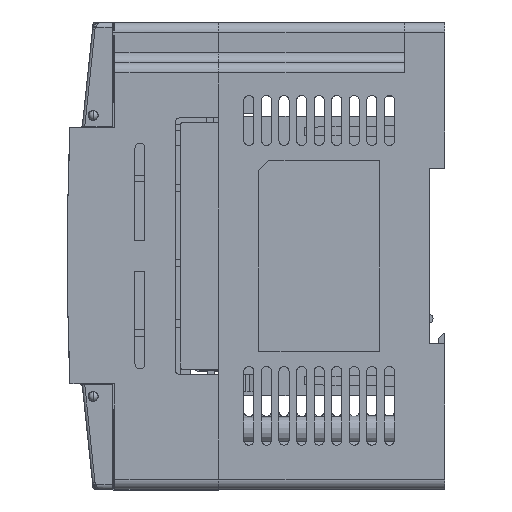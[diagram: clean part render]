
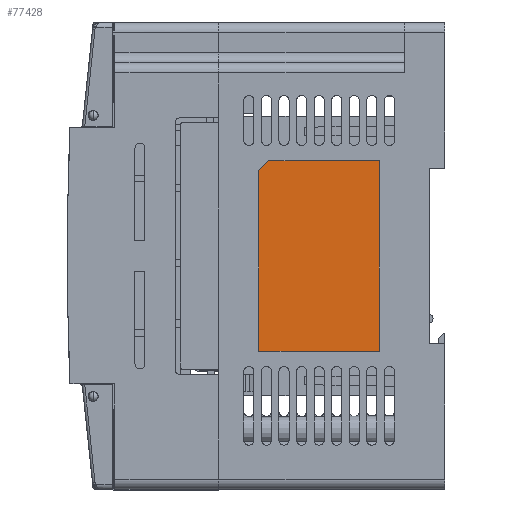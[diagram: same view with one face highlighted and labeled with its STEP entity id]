
A CAD part, left-side view. The second image highlights one B-rep face of the part: STEP entity #77428.
In plain terms, the highlighted planar face has unit normal (-1, 0, 0).
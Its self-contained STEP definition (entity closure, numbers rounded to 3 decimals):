
#1473 = EDGE_CURVE ( 'NONE', #42570, #53986, #59477, .T. ) ;
#3812 = CARTESIAN_POINT ( 'NONE',  ( -44.8, 12.996, -19. ) ) ;
#5919 = ORIENTED_EDGE ( 'NONE', *, *, #1473, .T. ) ;
#8323 = VECTOR ( 'NONE', #47122, 1000. ) ;
#9876 = CARTESIAN_POINT ( 'NONE',  ( -44.8, 0., 0. ) ) ;
#20959 = CARTESIAN_POINT ( 'NONE',  ( -44.8, 36.996, -19. ) ) ;
#22756 = ORIENTED_EDGE ( 'NONE', *, *, #45206, .T. ) ;
#24003 = EDGE_CURVE ( 'NONE', #78472, #42570, #53091, .T. ) ;
#25136 = VERTEX_POINT ( 'NONE', #72955 ) ;
#25345 = DIRECTION ( 'NONE',  ( 0., 0., -1. ) ) ;
#26701 = CARTESIAN_POINT ( 'NONE',  ( -44.8, 36.996, -19. ) ) ;
#28912 = ORIENTED_EDGE ( 'NONE', *, *, #24003, .T. ) ;
#31783 = DIRECTION ( 'NONE',  ( 0., 0.706, -0.708 ) ) ;
#35541 = EDGE_LOOP ( 'NONE', ( #28912, #5919, #37127, #65161, #22756 ) ) ;
#37127 = ORIENTED_EDGE ( 'NONE', *, *, #60674, .T. ) ;
#39567 = LINE ( 'NONE', #87194, #49096 ) ;
#40263 = CARTESIAN_POINT ( 'NONE',  ( -44.8, 12.996, -19. ) ) ;
#42570 = VERTEX_POINT ( 'NONE', #3812 ) ;
#45165 = DIRECTION ( 'NONE',  ( 1., 0., 0. ) ) ;
#45206 = EDGE_CURVE ( 'NONE', #25136, #78472, #88102, .T. ) ;
#47122 = DIRECTION ( 'NONE',  ( 0., -1., 0. ) ) ;
#49096 = VECTOR ( 'NONE', #31783, 1000. ) ;
#53060 = CARTESIAN_POINT ( 'NONE',  ( -44.8, 12.996, -19. ) ) ;
#53091 = LINE ( 'NONE', #40263, #8323 ) ;
#53986 = VERTEX_POINT ( 'NONE', #81844 ) ;
#56825 = CARTESIAN_POINT ( 'NONE',  ( -44.8, 35., 19. ) ) ;
#57424 = EDGE_CURVE ( 'NONE', #90260, #25136, #39567, .T. ) ;
#59477 = LINE ( 'NONE', #53060, #85383 ) ;
#60674 = EDGE_CURVE ( 'NONE', #53986, #90260, #84048, .T. ) ;
#64794 = AXIS2_PLACEMENT_3D ( 'NONE', #9876, #45165, #89437 ) ;
#65161 = ORIENTED_EDGE ( 'NONE', *, *, #57424, .T. ) ;
#70753 = DIRECTION ( 'NONE',  ( 0., 1., 0. ) ) ;
#72651 = PLANE ( 'NONE',  #64794 ) ;
#72955 = CARTESIAN_POINT ( 'NONE',  ( -44.8, 36.996, 17. ) ) ;
#76732 = CARTESIAN_POINT ( 'NONE',  ( -44.8, 12.996, 19. ) ) ;
#77428 = ADVANCED_FACE ( 'NONE', ( #86381 ), #72651, .F. ) ;
#78472 = VERTEX_POINT ( 'NONE', #20959 ) ;
#80112 = DIRECTION ( 'NONE',  ( 0., 0., 1. ) ) ;
#81844 = CARTESIAN_POINT ( 'NONE',  ( -44.8, 12.996, 19. ) ) ;
#82525 = VECTOR ( 'NONE', #25345, 1000. ) ;
#84048 = LINE ( 'NONE', #76732, #84665 ) ;
#84665 = VECTOR ( 'NONE', #70753, 1000. ) ;
#85383 = VECTOR ( 'NONE', #80112, 1000. ) ;
#86381 = FACE_OUTER_BOUND ( 'NONE', #35541, .T. ) ;
#87194 = CARTESIAN_POINT ( 'NONE',  ( -44.8, 35., 19. ) ) ;
#88102 = LINE ( 'NONE', #26701, #82525 ) ;
#89437 = DIRECTION ( 'NONE',  ( 0., 0., -1. ) ) ;
#90260 = VERTEX_POINT ( 'NONE', #56825 ) ;
